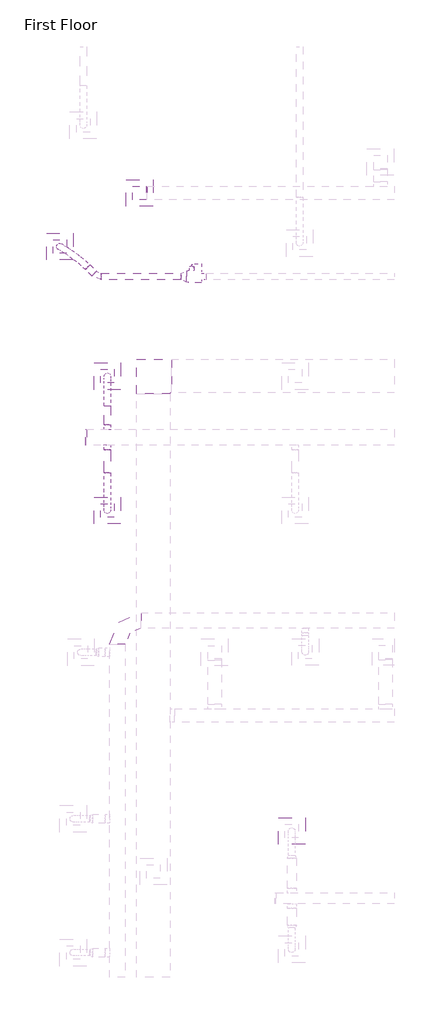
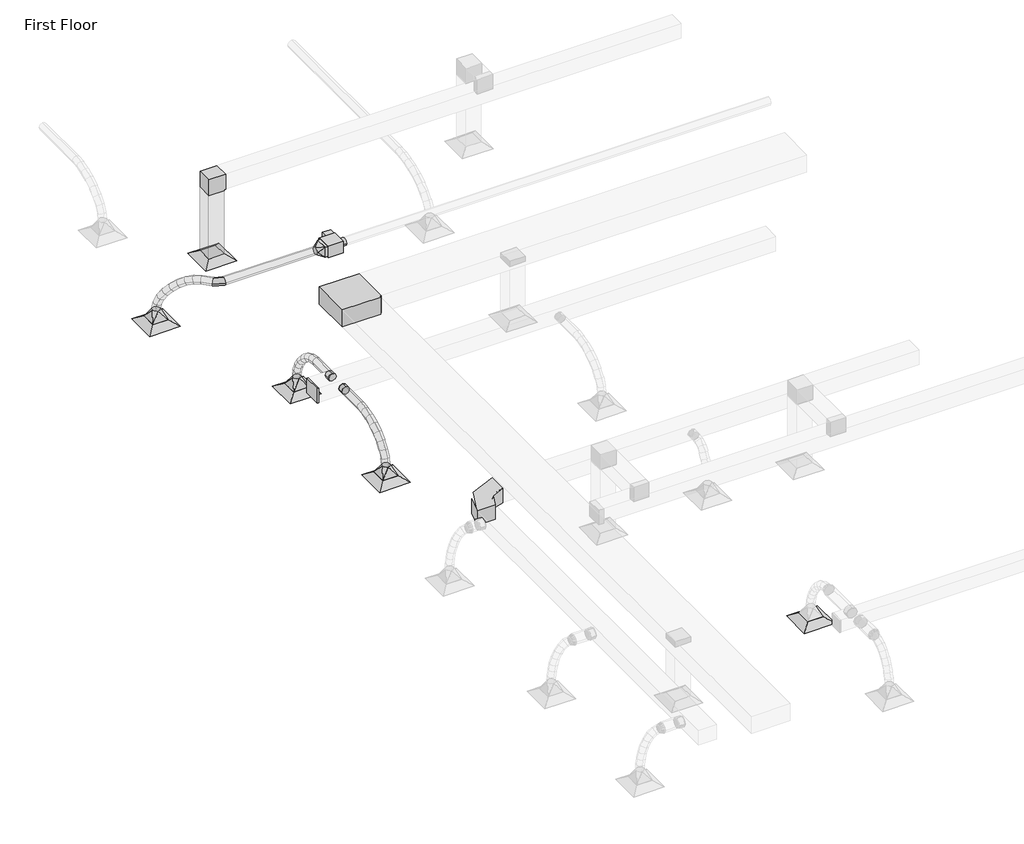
# One storey, part 34 of 61: 11 duct fittings, 8 duct segments, 5 air terminals, 1 proxy.
"""IFC4 building model written with IfcOpenShell, lengths in millimetres."""

from ifc_helpers import new_model, si_unit, point, frame, frame_2d, origin, place, context, project, spatial, polyline, circle_curve, ellipse_curve, trimmed, segment, composite_curve, outline, extrude, transform, mapped, element, save
from ifc_brep_helpers import plane_surface, cylinder_surface, advanced_brep
from components import m_exhaust_grill_er_600_x_600_face_300_x_300_connection_ff221211, m_vav_unit_single_duct_150_mm_ffdab17b, m_rectangular_elbow_mitered_standard_8eee5933, m_rectangular_elbow_mitered_standard_b1e48f8f, m_rectangular_elbow_radius_1_5_w_da3ef0f7, m_rectangular_endcap_standard_7e805889, m_rectangular_to_round_transition_angle_45_degree_8f201c83, m_rectangular_to_round_transition_angle_45_degree_66d46ab7, m_round_elbow_1_5_d_fa134dda, m_round_takeoff_standard_d02f3bf7, m_round_takeoff_standard_2721f8a4

model = new_model("IFC4")

# Units and contexts
model_context = context("Model", 3, world=origin())
ifc_project = project(units=[si_unit("LENGTHUNIT", "METRE", prefix="MILLI")], contexts=[model_context])

# Site, building, storey
site = spatial("IfcSite", under=ifc_project)
building = spatial("IfcBuilding", under=site)
storey = spatial("IfcBuildingStorey", under=building, Name="First Floor", Elevation=0.0)

# Air terminals
placement = place(None, origin())
m_exhaust_grill_er_600_x_600_face_300_x_300_connection_shape = m_exhaust_grill_er_600_x_600_face_300_x_300_connection_ff221211(model_context)
element("IfcAirTerminal", 1, ObjectType="M_Return Register : RR-600 x 600 Face 300 x 300 Connection", at=placement, inside=storey, context=model_context, shape_type="MappedRepresentation", body=[
    mapped(m_exhaust_grill_er_600_x_600_face_300_x_300_connection_shape, transform((-49523.2366451, 47179.7739392, 2680.0), x_axis=(1.0, 0.0, 0.0), y_axis=(0.0, 1.0, 0.0), z_axis=(0.0, 0.0, 1.0))),
])
element("IfcAirTerminal", 2, ObjectType="M_Supply Diffuser : SD-600 x 600 Face 300 x 300 Connection", at=placement, inside=storey, context=model_context, shape_type="MappedRepresentation", body=[
    mapped(m_exhaust_grill_er_600_x_600_face_300_x_300_connection_shape, transform((-51305.8869524, 45981.2689303, 2680.0), x_axis=(1.0, 0.0, 0.0), y_axis=(0.0, 1.0, 0.0), z_axis=(0.0, 0.0, 1.0))),
])
element("IfcAirTerminal", 3, ObjectType="M_Supply Diffuser : SD-600 x 600 Face 300 x 300 Connection", at=placement, inside=storey, context=model_context, shape_type="MappedRepresentation", body=[
    mapped(m_exhaust_grill_er_600_x_600_face_300_x_300_connection_shape, transform((-50242.3442218, 43083.0983956, 2680.0), x_axis=(1.0, 0.0, 0.0), y_axis=(0.0, 1.0, 0.0), z_axis=(0.0, 0.0, 1.0))),
])
element("IfcAirTerminal", 4, ObjectType="M_Supply Diffuser : SD-600 x 600 Face 300 x 300 Connection", at=placement, inside=storey, context=model_context, shape_type="MappedRepresentation", body=[
    mapped(m_exhaust_grill_er_600_x_600_face_300_x_300_connection_shape, transform((-50242.3442218, 40075.2507851, 2680.0), x_axis=(1.0, 0.0, 0.0), y_axis=(0.0, 1.0, 0.0), z_axis=(0.0, 0.0, 1.0))),
])
element("IfcAirTerminal", 5, ObjectType="M_Supply Diffuser : SD-600 x 600 Face 300 x 300 Connection", at=placement, inside=storey, context=model_context, shape_type="MappedRepresentation", body=[
    mapped(m_exhaust_grill_er_600_x_600_face_300_x_300_connection_shape, transform((-46112.4296862, 32905.8000587, 2680.0), x_axis=(1.0, 0.0, 0.0), y_axis=(0.0, 1.0, 0.0), z_axis=(0.0, 0.0, 1.0))),
])

# Proxy
m_vav_unit_single_duct_150_mm_shape = m_vav_unit_single_duct_150_mm_ffdab17b(model_context)
element("IfcBuildingElementProxy", 6, Name="M_VAV Unit - Single Duct : 150 mm", ObjectType="M_VAV Unit - Single Duct : 150 mm", at=placement, inside=storey, context=model_context, shape_type="MappedRepresentation", body=[
    mapped(m_vav_unit_single_duct_150_mm_shape, transform((-48130.9048215, 45311.1631718, 3500.0), x_axis=(-1.0000000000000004, 0.0, 0.0), y_axis=(0.0, -1.0000000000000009, 0.0), z_axis=(0.0, 0.0, 1.0000000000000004))),
])

# Duct fittings
m_rectangular_elbow_mitered_standard_shape = m_rectangular_elbow_mitered_standard_8eee5933(model_context)
element("IfcDuctFitting", 7, ObjectType="M_Rectangular Elbow - Mitered : Standard", at=placement, inside=storey, context=model_context, shape_type="MappedRepresentation", body=[
    mapped(m_rectangular_elbow_mitered_standard_shape, transform((-49523.2366451, 47179.7739392, 4259.5), x_axis=(0.0, 0.0, 1.0), y_axis=(1.0, 0.0, 0.0), z_axis=(0.0, 1.0, 0.0))),
])
m_rectangular_elbow_mitered_standard_2_shape = m_rectangular_elbow_mitered_standard_b1e48f8f(model_context)
element("IfcDuctFitting", 8, ObjectType="M_Rectangular Elbow - Mitered : Standard", at=placement, inside=storey, context=model_context, shape_type="MappedRepresentation", body=[
    mapped(m_rectangular_elbow_mitered_standard_2_shape, transform((-49210.6837723, 43083.0983956, 4167.610768), x_axis=(-1.0, 0.0, 0.0), y_axis=(0.0, -1.0, 0.0), z_axis=(0.0, 0.0, 1.0))),
])
m_rectangular_elbow_radius_1_5_w_shape = m_rectangular_elbow_radius_1_5_w_da3ef0f7(model_context)
element("IfcDuctFitting", 9, ObjectType="M_Rectangular Elbow - Radius : 1.5 W", at=placement, inside=storey, context=model_context, shape_type="MappedRepresentation", body=[
    mapped(m_rectangular_elbow_radius_1_5_w_shape, transform((-50017.7715879, 37612.2097424, 3669.0), x_axis=(-1.0, 0.0, 0.0), y_axis=(0.0, -1.0, 0.0), z_axis=(0.0, 0.0, 1.0))),
])
m_rectangular_endcap_standard_shape = m_rectangular_endcap_standard_7e805889(model_context)
element("IfcDuctFitting", 10, ObjectType="M_Rectangular Endcap : Standard", at=placement, inside=storey, context=model_context, shape_type="MappedRepresentation", body=[
    mapped(m_rectangular_endcap_standard_shape, transform((-50708.4542232, 41715.419914, 3669.0), x_axis=(-1.0, 0.0, 0.0), y_axis=(0.0, -1.0, 0.0), z_axis=(0.0, 0.0, 1.0))),
])
m_rectangular_to_round_transition_angle_45_degree_shape = m_rectangular_to_round_transition_angle_45_degree_8f201c83(model_context)
element("IfcDuctFitting", 11, ObjectType="M_Rectangular to Round Transition - Angle : 45 Degree", at=placement, inside=storey, context=model_context, shape_type="MappedRepresentation", body=[
    mapped(m_rectangular_to_round_transition_angle_45_degree_shape, transform((-51305.8869524, 45981.2689303, 2781.6), x_axis=(0.0, 0.0, 1.0), y_axis=(1.0, 0.0, 0.0), z_axis=(0.0, 1.0, 0.0))),
])
element("IfcDuctFitting", 12, ObjectType="M_Rectangular to Round Transition - Angle : 45 Degree", at=placement, inside=storey, context=model_context, shape_type="MappedRepresentation", body=[
    mapped(m_rectangular_to_round_transition_angle_45_degree_shape, transform((-50242.3442218, 40075.2507851, 2781.6), x_axis=(0.0, 0.0, 1.0), y_axis=(1.0, 0.0, 0.0), z_axis=(0.0, 1.0, 0.0))),
])
element("IfcDuctFitting", 13, ObjectType="M_Rectangular to Round Transition - Angle : 45 Degree", at=placement, inside=storey, context=model_context, shape_type="MappedRepresentation", body=[
    mapped(m_rectangular_to_round_transition_angle_45_degree_shape, transform((-50242.3442218, 43083.0983956, 2781.6), x_axis=(0.0, 0.0, 1.0), y_axis=(1.0, 0.0, 0.0), z_axis=(0.0, 1.0, 0.0))),
])
m_rectangular_to_round_transition_angle_45_degree_2_shape = m_rectangular_to_round_transition_angle_45_degree_66d46ab7(model_context)
element("IfcDuctFitting", 14, ObjectType="M_Rectangular to Round Transition - Angle : 45 Degree", at=placement, inside=storey, context=model_context, shape_type="MappedRepresentation", body=[
    mapped(m_rectangular_to_round_transition_angle_45_degree_2_shape, transform((-48473.7048215, 45311.1631718, 3619.05), x_axis=(-1.0, 0.0, 0.0), y_axis=(0.0, -1.0, 0.0), z_axis=(0.0, 0.0, 1.0))),
])
m_round_elbow_1_5_d_shape = m_round_elbow_1_5_d_fa134dda(model_context)
element("IfcDuctFitting", 15, ObjectType="M_Round Elbow : 1.5 D", at=placement, inside=storey, context=model_context, shape_type="MappedRepresentation", body=[
    mapped(m_round_elbow_1_5_d_shape, transform((-50473.7048215, 45311.1631718, 3619.1), x_axis=(0.7071067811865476, -0.7071067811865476, 0.0), y_axis=(0.7071067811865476, 0.7071067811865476, 0.0), z_axis=(0.0, 0.0, 1.0))),
])
m_round_takeoff_standard_shape = m_round_takeoff_standard_d02f3bf7(model_context)
element("IfcDuctFitting", 16, ObjectType="M_Round Takeoff : Standard", at=placement, inside=storey, context=model_context, shape_type="MappedRepresentation", body=[
    mapped(m_round_takeoff_standard_shape, transform((-50242.3442218, 41890.419914, 3669.0), x_axis=(0.0, 1.0, 0.0), y_axis=(1.0, 0.0, 0.0), z_axis=(0.0, 0.0, -1.0))),
])
m_round_takeoff_standard_2_shape = m_round_takeoff_standard_2721f8a4(model_context)
element("IfcDuctFitting", 17, ObjectType="M_Round Takeoff : Standard", at=placement, inside=storey, context=model_context, shape_type="MappedRepresentation", body=[
    mapped(m_round_takeoff_standard_2_shape, transform((-50242.3442218, 41540.419914, 3669.0), x_axis=(0.0, -1.0, 0.0), y_axis=(-1.0, 0.0, 0.0), z_axis=(0.0, 0.0, -1.0))),
])

# Duct segments
element("IfcDuctSegment", 18, ObjectType="Flex - Round", at=placement, inside=storey, context=model_context, shape_type="AdvancedBrep", body=[
    advanced_brep(
    [(-50736.8187899, 45468.2875485, 3619.1), (-50679.7840798, 45517.6854012, 3544.5554228), (-50634.8549218, 45578.3028638, 3619.1), (-50691.8896319, 45528.9050111, 3693.6445772), (-50830.39089, 45555.0115946, 3604.9758881), (-50769.7756735, 45601.0909796, 3530.9717655), (-50731.6015926, 45667.9691504, 3604.4967069), (-50792.2168091, 45621.8897655, 3678.5008295), (-51350.4224553, 45920.9358927, 2963.8962803), (-51365.4009907, 46025.4345779, 2974.1757872), (-51261.3514494, 46041.6019679, 2961.435754), (-51246.372914, 45937.1032827, 2951.1562472), (-50930.1301426, 45636.8678608, 3565.2906383), (-50862.5103946, 45677.1986084, 3494.0735486), (-50836.6641536, 45754.1942697, 3562.693366), (-50904.2839015, 45713.8635221, 3633.9104557), (-51031.968857, 45713.1656264, 3502.7067662), (-50957.6998207, 45748.514714, 3435.5759243), (-50941.8250243, 45832.9810013, 3498.067899), (-51016.0940607, 45797.6319137, 3565.1987409), (-51129.5127178, 45781.2289655, 3420.5304137), (-51048.5030329, 45811.8746197, 3359.0782676), (-51041.1932497, 45902.3173304, 3414.3546007), (-51122.2029347, 45871.6716761, 3475.8067468), (-51216.4578587, 45838.5285476, 3322.1329135), (-51128.2894413, 45864.456372, 3268.7824436), (-51128.7874251, 45960.0446466, 3315.2225755), (-51216.9558425, 45934.1168222, 3368.5730454), (-51286.545393, 45882.6040192, 3210.8351628), (-51190.8408271, 45903.7926371, 3169.4519618), (-51198.5811663, 46003.9353624, 3204.391363), (-51294.2857322, 45982.7467445, 3245.774564), (-51333.4512279, 45910.9770364, 3089.8645326), (-51230.8720003, 45928.0072187, 3066.2111549), (-51244.6132953, 46031.779881, 3085.6740294), (-51347.1925229, 46014.7496987, 3109.3274071)],
    [
        (0, 1, circle_curve(frame((-50685.8368558, 45523.2952062, 3619.1), z_axis=(0.7289817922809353, -0.6756314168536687, 0.11003515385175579), x_axis=(-0.6797591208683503, -0.7334354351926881, 0.0)), 75.0)),
        (1, 2, circle_curve(frame((-50685.8368558, 45523.2952062, 3619.1), z_axis=(0.7289817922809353, -0.6756314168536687, 0.11003515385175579), x_axis=(-0.6797591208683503, -0.7334354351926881, 0.0)), 75.0)),
        (2, 3, circle_curve(frame((-50685.8368558, 45523.2952062, 3619.1), z_axis=(0.7289817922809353, -0.6756314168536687, 0.11003515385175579), x_axis=(-0.6797591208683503, -0.7334354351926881, 0.0)), 75.0)),
        (3, 0, circle_curve(frame((-50685.8368558, 45523.2952062, 3619.1), z_axis=(0.7289817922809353, -0.6756314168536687, 0.11003515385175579), x_axis=(-0.6797591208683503, -0.7334354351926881, 0.0)), 75.0)),
        (0, 4),
        (4, 5, ellipse_curve(frame((-50780.9962413, 45611.4903725, 3604.7362975), z_axis=(0.7374919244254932, -0.6441272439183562, 0.20299200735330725), x_axis=(-0.050113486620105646, -0.3519354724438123, -0.9346817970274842)), 75.3657466, 75.0)),
        (5, 1),
        (5, 6, ellipse_curve(frame((-50780.9962413, 45611.4903725, 3604.7362975), z_axis=(0.7374919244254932, -0.6441272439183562, 0.20299200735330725), x_axis=(-0.050113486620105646, -0.3519354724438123, -0.9346817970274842)), 75.3657466, 75.0)),
        (6, 2),
        (6, 7, ellipse_curve(frame((-50780.9962413, 45611.4903725, 3604.7362975), z_axis=(0.7374919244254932, -0.6441272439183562, 0.20299200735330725), x_axis=(-0.050113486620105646, -0.3519354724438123, -0.9346817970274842)), 75.3657466, 75.0)),
        (7, 3),
        (7, 4, ellipse_curve(frame((-50780.9962413, 45611.4903725, 3604.7362975), z_axis=(0.7374919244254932, -0.6441272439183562, 0.20299200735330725), x_axis=(-0.050113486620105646, -0.3519354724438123, -0.9346817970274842)), 75.3657466, 75.0)),
        (8, 9, circle_curve(frame((-51305.8869524, 45981.2689303, 2962.6660172), z_axis=(-0.1331119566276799, 0.0781111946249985, -0.9880181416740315), x_axis=(-0.5938067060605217, -0.8044405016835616, 0.016403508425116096)), 75.0)),
        (9, 10, circle_curve(frame((-51305.8869524, 45981.2689303, 2962.6660172), z_axis=(-0.1331119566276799, 0.0781111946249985, -0.9880181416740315), x_axis=(-0.5938067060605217, -0.8044405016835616, 0.016403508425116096)), 75.0)),
        (10, 11, circle_curve(frame((-51305.8869524, 45981.2689303, 2962.6660172), z_axis=(-0.1331119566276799, 0.0781111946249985, -0.9880181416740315), x_axis=(-0.5938067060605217, -0.8044405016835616, 0.016403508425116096)), 75.0)),
        (11, 8, circle_curve(frame((-51305.8869524, 45981.2689303, 2962.6660172), z_axis=(-0.1331119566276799, 0.0781111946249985, -0.9880181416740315), x_axis=(-0.5938067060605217, -0.8044405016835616, 0.016403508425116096)), 75.0)),
        (4, 12),
        (12, 13, ellipse_curve(frame((-50883.3971481, 45695.5310652, 3563.9920022), z_axis=(0.7309509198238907, -0.5741327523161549, 0.3688933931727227), x_axis=(0.12638262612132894, -0.41732151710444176, -0.8999278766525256)), 75.2526171, 75.0)),
        (13, 5),
        (13, 14, ellipse_curve(frame((-50883.3971481, 45695.5310652, 3563.9920022), z_axis=(0.7309509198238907, -0.5741327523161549, 0.3688933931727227), x_axis=(0.12638262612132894, -0.41732151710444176, -0.8999278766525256)), 75.2526171, 75.0)),
        (14, 6),
        (14, 15, ellipse_curve(frame((-50883.3971481, 45695.5310652, 3563.9920022), z_axis=(0.7309509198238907, -0.5741327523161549, 0.3688933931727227), x_axis=(0.12638262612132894, -0.41732151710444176, -0.8999278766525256)), 75.2526171, 75.0)),
        (15, 7),
        (15, 12, ellipse_curve(frame((-50883.3971481, 45695.5310652, 3563.9920022), z_axis=(0.7309509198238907, -0.5741327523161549, 0.3688933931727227), x_axis=(0.12638262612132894, -0.41732151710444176, -0.8999278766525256)), 75.2526171, 75.0)),
        (12, 16),
        (16, 17, ellipse_curve(frame((-50986.8969407, 45773.0733138, 3500.3873326), z_axis=(0.6984068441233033, -0.5058481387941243, 0.5063057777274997), x_axis=(0.28916286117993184, -0.44767807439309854, -0.8461496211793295)), 75.2123908, 75.0)),
        (17, 13),
        (17, 18, ellipse_curve(frame((-50986.8969407, 45773.0733138, 3500.3873326), z_axis=(0.6984068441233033, -0.5058481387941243, 0.5063057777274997), x_axis=(0.28916286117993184, -0.44767807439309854, -0.8461496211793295)), 75.2123908, 75.0)),
        (18, 14),
        (18, 19, ellipse_curve(frame((-50986.8969407, 45773.0733138, 3500.3873326), z_axis=(0.6984068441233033, -0.5058481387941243, 0.5063057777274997), x_axis=(0.28916286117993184, -0.44767807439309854, -0.8461496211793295)), 75.2123908, 75.0)),
        (19, 15),
        (19, 16, ellipse_curve(frame((-50986.8969407, 45773.0733138, 3500.3873326), z_axis=(0.6984068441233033, -0.5058481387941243, 0.5063057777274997), x_axis=(0.28916286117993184, -0.44767807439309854, -0.8461496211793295)), 75.2123908, 75.0)),
        (16, 20),
        (20, 21, ellipse_curve(frame((-51085.3529838, 45841.7731479, 3417.4425072), z_axis=(0.6427037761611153, -0.43667015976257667, 0.6294847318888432), x_axis=(0.44119441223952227, -0.46076757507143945, -0.7700913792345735)), 75.2226072, 75.0)),
        (21, 17),
        (21, 22, ellipse_curve(frame((-51085.3529838, 45841.7731479, 3417.4425072), z_axis=(0.6427037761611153, -0.43667015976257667, 0.6294847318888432), x_axis=(0.44119441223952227, -0.46076757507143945, -0.7700913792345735)), 75.2226072, 75.0)),
        (22, 18),
        (22, 23, ellipse_curve(frame((-51085.3529838, 45841.7731479, 3417.4425072), z_axis=(0.6427037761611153, -0.43667015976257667, 0.6294847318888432), x_axis=(0.44119441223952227, -0.46076757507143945, -0.7700913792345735)), 75.2226072, 75.0)),
        (23, 19),
        (23, 20, ellipse_curve(frame((-51085.3529838, 45841.7731479, 3417.4425072), z_axis=(0.6427037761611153, -0.43667015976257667, 0.6294847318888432), x_axis=(0.44119441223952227, -0.46076757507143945, -0.7700913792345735)), 75.2226072, 75.0)),
        (20, 24),
        (24, 25, ellipse_curve(frame((-51172.6226419, 45899.2865971, 3318.6777445), z_axis=(0.558199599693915, -0.36022053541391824, 0.7474318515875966), x_axis=(0.5825519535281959, -0.4712972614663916, -0.6622024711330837)), 75.2869398, 75.0)),
        (25, 21),
        (25, 26, ellipse_curve(frame((-51172.6226419, 45899.2865971, 3318.6777445), z_axis=(0.558199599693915, -0.36022053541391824, 0.7474318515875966), x_axis=(0.5825519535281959, -0.4712972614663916, -0.6622024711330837)), 75.2869398, 75.0)),
        (26, 22),
        (26, 27, ellipse_curve(frame((-51172.6226419, 45899.2865971, 3318.6777445), z_axis=(0.558199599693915, -0.36022053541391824, 0.7474318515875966), x_axis=(0.5825519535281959, -0.4712972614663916, -0.6622024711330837)), 75.2869398, 75.0)),
        (27, 23),
        (27, 24, ellipse_curve(frame((-51172.6226419, 45899.2865971, 3318.6777445), z_axis=(0.558199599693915, -0.36022053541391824, 0.7474318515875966), x_axis=(0.5825519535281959, -0.4712972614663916, -0.6622024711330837)), 75.2869398, 75.0)),
        (24, 28),
        (28, 29, ellipse_curve(frame((-51242.5632797, 45943.2696908, 3207.6132629), z_axis=(0.43169214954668, -0.2672180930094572, 0.861531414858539), x_axis=(0.7111170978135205, -0.4867786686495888, -0.5073056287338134)), 75.4325223, 75.0)),
        (29, 25),
        (29, 30, ellipse_curve(frame((-51242.5632797, 45943.2696908, 3207.6132629), z_axis=(0.43169214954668, -0.2672180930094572, 0.861531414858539), x_axis=(0.7111170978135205, -0.4867786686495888, -0.5073056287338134)), 75.4325223, 75.0)),
        (30, 26),
        (30, 31, ellipse_curve(frame((-51242.5632797, 45943.2696908, 3207.6132629), z_axis=(0.43169214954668, -0.2672180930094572, 0.861531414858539), x_axis=(0.7111170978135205, -0.4867786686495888, -0.5073056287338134)), 75.4325223, 75.0)),
        (31, 27),
        (31, 28, ellipse_curve(frame((-51242.5632797, 45943.2696908, 3207.6132629), z_axis=(0.43169214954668, -0.2672180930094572, 0.861531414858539), x_axis=(0.7111170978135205, -0.4867786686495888, -0.5073056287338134)), 75.4325223, 75.0)),
        (28, 32),
        (32, 33, ellipse_curve(frame((-51289.0322616, 45971.3784587, 3087.769281), z_axis=(0.24538476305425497, -0.14721680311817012, 0.9581824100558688), x_axis=(0.8158854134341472, -0.5024486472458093, -0.2861404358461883)), 75.6914772, 75.0)),
        (33, 29),
        (33, 34, ellipse_curve(frame((-51289.0322616, 45971.3784587, 3087.769281), z_axis=(0.24538476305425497, -0.14721680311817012, 0.9581824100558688), x_axis=(0.8158854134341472, -0.5024486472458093, -0.2861404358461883)), 75.6914772, 75.0)),
        (34, 30),
        (34, 35, ellipse_curve(frame((-51289.0322616, 45971.3784587, 3087.769281), z_axis=(0.24538476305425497, -0.14721680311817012, 0.9581824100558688), x_axis=(0.8158854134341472, -0.5024486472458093, -0.2861404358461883)), 75.6914772, 75.0)),
        (35, 31),
        (35, 32, ellipse_curve(frame((-51289.0322616, 45971.3784587, 3087.769281), z_axis=(0.24538476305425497, -0.14721680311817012, 0.9581824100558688), x_axis=(0.8158854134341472, -0.5024486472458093, -0.2861404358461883)), 75.6914772, 75.0)),
        (32, 8),
        (11, 33),
        (10, 34),
        (9, 35),
    ],
    [
        plane_surface(frame((-50685.8368558, 45535.3510683, 3693.1246998), z_axis=(0.7289817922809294, -0.6756314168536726, 0.11003515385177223), x_axis=(0.6845330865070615, 0.719502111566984, -0.1171800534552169))),
        cylinder_surface(frame((-50685.8368558, 45523.2952062, 3619.1), z_axis=(0.7289817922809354, -0.6756314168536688, 0.11003515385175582), x_axis=(-0.6797591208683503, -0.7334354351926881, 0.0)), 75.0),
        plane_surface(frame((-51305.8869524, 46056.0356393, 2968.5769582), z_axis=(-0.13311195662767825, 0.07811119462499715, -0.9880181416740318), x_axis=(0.9911010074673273, 0.010490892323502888, -0.13269790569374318))),
        cylinder_surface(frame((-50780.9962413, 45611.4903725, 3604.7362975), z_axis=(0.7388440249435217, -0.6063712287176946, 0.29397863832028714), x_axis=(-0.6371451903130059, -0.7706545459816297, 0.011729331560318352)), 75.0),
        cylinder_surface(frame((-50883.3971481, 45695.5310652, 3563.9920022), z_axis=(0.7181503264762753, -0.5380396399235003, 0.44133145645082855), x_axis=(-0.6094611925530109, -0.7923992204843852, 0.02570078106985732)), 75.0),
        cylinder_surface(frame((-50986.8969407, 45773.0733138, 3500.3873326), z_axis=(0.6747189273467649, -0.4707997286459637, 0.5684206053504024), x_axis=(-0.5929707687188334, -0.8043430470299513, 0.03765541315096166)), 75.0),
        cylinder_surface(frame((-51085.3529838, 45841.7731479, 3417.4425072), z_axis=(0.6068847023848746, -0.3999561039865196, 0.6868231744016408), x_axis=(-0.5850418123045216, -0.8097301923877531, 0.04542128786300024)), 75.0),
        cylinder_surface(frame((-51172.6226419, 45899.2865971, 3318.6777445), z_axis=(0.5052595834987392, -0.31773916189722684, 0.8023431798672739), x_axis=(-0.5839931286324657, -0.8104069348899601, 0.04682548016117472)), 75.0),
        cylinder_surface(frame((-51242.5632797, 45943.2696908, 3207.6132629), z_axis=(0.3531741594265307, -0.21363262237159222, 0.9108397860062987), x_axis=(-0.5881302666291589, -0.8078460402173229, 0.038568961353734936)), 75.0),
        cylinder_surface(frame((-51289.0322616, 45971.3784587, 3087.769281), z_axis=(0.13311195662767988, -0.07811119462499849, 0.9880181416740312), x_axis=(-0.5938067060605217, -0.8044405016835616, 0.016403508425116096)), 75.0),
    ],
    [
        (0, [[1, 2, 3, 4]]),
        (1, [[-1, 5, 6, 7]]),
        (1, [[-2, -7, 8, 9]]),
        (1, [[-3, -9, 10, 11]]),
        (1, [[-4, -11, 12, -5]]),
        (2, [[13, 14, 15, 16]]),
        (3, [[-6, 17, 18, 19]]),
        (3, [[-8, -19, 20, 21]]),
        (3, [[-10, -21, 22, 23]]),
        (3, [[-12, -23, 24, -17]]),
        (4, [[-18, 25, 26, 27]]),
        (4, [[-20, -27, 28, 29]]),
        (4, [[-22, -29, 30, 31]]),
        (4, [[-24, -31, 32, -25]]),
        (5, [[-26, 33, 34, 35]]),
        (5, [[-28, -35, 36, 37]]),
        (5, [[-30, -37, 38, 39]]),
        (5, [[-32, -39, 40, -33]]),
        (6, [[-34, 41, 42, 43]]),
        (6, [[-36, -43, 44, 45]]),
        (6, [[-38, -45, 46, 47]]),
        (6, [[-40, -47, 48, -41]]),
        (7, [[-42, 49, 50, 51]]),
        (7, [[-44, -51, 52, 53]]),
        (7, [[-46, -53, 54, 55]]),
        (7, [[-48, -55, 56, -49]]),
        (8, [[-50, 57, 58, 59]]),
        (8, [[-52, -59, 60, 61]]),
        (8, [[-54, -61, 62, 63]]),
        (8, [[-56, -63, 64, -57]]),
        (9, [[-58, 65, -16, 66]]),
        (9, [[-60, -66, -15, 67]]),
        (9, [[-62, -67, -14, 68]]),
        (9, [[-64, -68, -13, -65]]),
    ],
),
])
element("IfcDuctSegment", 19, ObjectType="Flex - Round", at=placement, inside=storey, context=model_context, shape_type="AdvancedBrep", body=[
    advanced_brep(
    [(-50167.3442218, 40915.419914, 3669.0), (-50242.3442218, 40923.5251309, 3594.4392499), (-50317.3442218, 40915.419914, 3669.0), (-50242.3442218, 40907.3146971, 3743.5607501), (-50167.3442218, 40774.272265, 3653.6563733), (-50242.3442218, 40789.2791324, 3579.8458755), (-50317.3442218, 40774.272265, 3653.6563733), (-50242.3442218, 40759.2653976, 3727.4668712), (-50167.3442218, 40075.2507851, 2962.6660172), (-50242.3442218, 40001.144763, 2974.2114702), (-50317.3442218, 40075.2507851, 2962.6660172), (-50242.3442218, 40149.3568072, 2951.1205641), (-50167.3442218, 40629.7892532, 3610.0867266), (-50242.3442218, 40657.0949868, 3539.9850195), (-50317.3442218, 40629.7892532, 3610.0867266), (-50242.3442218, 40602.4835197, 3680.1884338), (-50167.3442218, 40488.7994898, 3541.9829097), (-50242.3442218, 40526.4165495, 3476.8619945), (-50317.3442218, 40488.7994898, 3541.9829097), (-50242.3442218, 40451.18243, 3607.1038249), (-50167.3442218, 40358.1315857, 3453.0367725), (-50242.3442218, 40405.1169096, 3394.2928701), (-50317.3442218, 40358.1315857, 3453.0367725), (-50242.3442218, 40311.1462618, 3511.7806748), (-50167.3442218, 40244.6141521, 3346.9401647), (-50242.3442218, 40300.6702173, 3296.6740341), (-50317.3442218, 40244.6141521, 3346.9401647), (-50242.3442218, 40188.5580868, 3397.2062953), (-50167.3442218, 40155.0758, 3227.3849363), (-50242.3442218, 40219.9930329, 3188.9505951), (-50317.3442218, 40155.0758, 3227.3849363), (-50242.3442218, 40090.1585672, 3265.8192776), (-50167.3442218, 40096.3451407, 3098.0629372), (-50242.3442218, 40168.8727584, 3076.3862859), (-50317.3442218, 40096.3451407, 3098.0629372), (-50242.3442218, 40023.817523, 3119.7395885)],
    [
        (0, 1, circle_curve(frame((-50242.3442218, 40915.419914, 3669.0), z_axis=(0.0, 0.994143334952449, 0.10806955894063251), x_axis=(1.0, 0.0, 0.0)), 75.0)),
        (1, 2, circle_curve(frame((-50242.3442218, 40915.419914, 3669.0), z_axis=(0.0, 0.994143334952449, 0.10806955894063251), x_axis=(1.0, 0.0, 0.0)), 75.0)),
        (2, 3, circle_curve(frame((-50242.3442218, 40915.419914, 3669.0), z_axis=(0.0, 0.994143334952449, 0.10806955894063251), x_axis=(1.0, 0.0, 0.0)), 75.0)),
        (3, 0, circle_curve(frame((-50242.3442218, 40915.419914, 3669.0), z_axis=(0.0, 0.994143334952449, 0.10806955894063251), x_axis=(1.0, 0.0, 0.0)), 75.0)),
        (0, 4),
        (4, 5, ellipse_curve(frame((-50242.3442218, 40774.272265, 3653.6563733), z_axis=(0.0, 0.9799507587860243, 0.19923983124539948), x_axis=(0.0, 0.19923983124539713, -0.9799507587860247)), 75.3206191, 75.0)),
        (5, 1),
        (5, 6, ellipse_curve(frame((-50242.3442218, 40774.272265, 3653.6563733), z_axis=(0.0, 0.9799507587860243, 0.19923983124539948), x_axis=(0.0, 0.19923983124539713, -0.9799507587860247)), 75.3206191, 75.0)),
        (6, 2),
        (6, 7, ellipse_curve(frame((-50242.3442218, 40774.272265, 3653.6563733), z_axis=(0.0, 0.9799507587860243, 0.19923983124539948), x_axis=(0.0, 0.19923983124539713, -0.9799507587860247)), 75.3206191, 75.0)),
        (7, 3),
        (7, 4, ellipse_curve(frame((-50242.3442218, 40774.272265, 3653.6563733), z_axis=(0.0, 0.9799507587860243, 0.19923983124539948), x_axis=(0.0, 0.19923983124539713, -0.9799507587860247)), 75.3206191, 75.0)),
        (8, 9, circle_curve(frame((-50242.3442218, 40075.2507851, 2962.6660172), z_axis=(0.0, -0.1539393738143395, -0.9880802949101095), x_axis=(1.0, 0.0, 0.0)), 75.0)),
        (9, 10, circle_curve(frame((-50242.3442218, 40075.2507851, 2962.6660172), z_axis=(0.0, -0.1539393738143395, -0.9880802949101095), x_axis=(1.0, 0.0, 0.0)), 75.0)),
        (10, 11, circle_curve(frame((-50242.3442218, 40075.2507851, 2962.6660172), z_axis=(0.0, -0.1539393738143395, -0.9880802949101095), x_axis=(1.0, 0.0, 0.0)), 75.0)),
        (11, 8, circle_curve(frame((-50242.3442218, 40075.2507851, 2962.6660172), z_axis=(0.0, -0.1539393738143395, -0.9880802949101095), x_axis=(1.0, 0.0, 0.0)), 75.0)),
        (4, 12),
        (12, 13, ellipse_curve(frame((-50242.3442218, 40629.7892532, 3610.0867266), z_axis=(0.0, 0.9318071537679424, 0.36295375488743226), x_axis=(0.0, 0.3629537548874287, -0.9318071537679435)), 75.2319907, 75.0)),
        (13, 5),
        (13, 14, ellipse_curve(frame((-50242.3442218, 40629.7892532, 3610.0867266), z_axis=(0.0, 0.9318071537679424, 0.36295375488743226), x_axis=(0.0, 0.3629537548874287, -0.9318071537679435)), 75.2319907, 75.0)),
        (14, 6),
        (14, 15, ellipse_curve(frame((-50242.3442218, 40629.7892532, 3610.0867266), z_axis=(0.0, 0.9318071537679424, 0.36295375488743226), x_axis=(0.0, 0.3629537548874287, -0.9318071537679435)), 75.2319907, 75.0)),
        (15, 7),
        (15, 12, ellipse_curve(frame((-50242.3442218, 40629.7892532, 3610.0867266), z_axis=(0.0, 0.9318071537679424, 0.36295375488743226), x_axis=(0.0, 0.3629537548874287, -0.9318071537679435)), 75.2319907, 75.0)),
        (12, 16),
        (16, 17, ellipse_curve(frame((-50242.3442218, 40488.7994898, 3541.9829097), z_axis=(0.0, 0.8659132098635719, 0.5001942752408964), x_axis=(0.0, 0.5001942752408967, -0.8659132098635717)), 75.2048987, 75.0)),
        (17, 13),
        (17, 18, ellipse_curve(frame((-50242.3442218, 40488.7994898, 3541.9829097), z_axis=(0.0, 0.8659132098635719, 0.5001942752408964), x_axis=(0.0, 0.5001942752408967, -0.8659132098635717)), 75.2048987, 75.0)),
        (18, 14),
        (18, 19, ellipse_curve(frame((-50242.3442218, 40488.7994898, 3541.9829097), z_axis=(0.0, 0.8659132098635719, 0.5001942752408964), x_axis=(0.0, 0.5001942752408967, -0.8659132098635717)), 75.2048987, 75.0)),
        (19, 15),
        (19, 16, ellipse_curve(frame((-50242.3442218, 40488.7994898, 3541.9829097), z_axis=(0.0, 0.8659132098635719, 0.5001942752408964), x_axis=(0.0, 0.5001942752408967, -0.8659132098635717)), 75.2048987, 75.0)),
        (16, 20),
        (20, 21, ellipse_curve(frame((-50242.3442218, 40358.1315857, 3453.0367725), z_axis=(0.0, 0.7809323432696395, 0.6246156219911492), x_axis=(0.0, 0.624615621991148, -0.7809323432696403)), 75.2227806, 75.0)),
        (21, 17),
        (21, 22, ellipse_curve(frame((-50242.3442218, 40358.1315857, 3453.0367725), z_axis=(0.0, 0.7809323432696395, 0.6246156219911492), x_axis=(0.0, 0.624615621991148, -0.7809323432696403)), 75.2227806, 75.0)),
        (22, 18),
        (22, 23, ellipse_curve(frame((-50242.3442218, 40358.1315857, 3453.0367725), z_axis=(0.0, 0.7809323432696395, 0.6246156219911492), x_axis=(0.0, 0.624615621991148, -0.7809323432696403)), 75.2227806, 75.0)),
        (23, 19),
        (23, 20, ellipse_curve(frame((-50242.3442218, 40358.1315857, 3453.0367725), z_axis=(0.0, 0.7809323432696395, 0.6246156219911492), x_axis=(0.0, 0.624615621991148, -0.7809323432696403)), 75.2227806, 75.0)),
        (20, 24),
        (24, 25, ellipse_curve(frame((-50242.3442218, 40244.6141521, 3346.9401647), z_axis=(0.0, 0.6676110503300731, 0.7445102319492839), x_axis=(0.0, 0.7445102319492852, -0.6676110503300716)), 75.2925384, 75.0)),
        (25, 21),
        (25, 26, ellipse_curve(frame((-50242.3442218, 40244.6141521, 3346.9401647), z_axis=(0.0, 0.6676110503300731, 0.7445102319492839), x_axis=(0.0, 0.7445102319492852, -0.6676110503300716)), 75.2925384, 75.0)),
        (26, 22),
        (26, 27, ellipse_curve(frame((-50242.3442218, 40244.6141521, 3346.9401647), z_axis=(0.0, 0.6676110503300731, 0.7445102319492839), x_axis=(0.0, 0.7445102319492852, -0.6676110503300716)), 75.2925384, 75.0)),
        (27, 23),
        (27, 24, ellipse_curve(frame((-50242.3442218, 40244.6141521, 3346.9401647), z_axis=(0.0, 0.6676110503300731, 0.7445102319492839), x_axis=(0.0, 0.7445102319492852, -0.6676110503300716)), 75.2925384, 75.0)),
        (24, 28),
        (28, 29, ellipse_curve(frame((-50242.3442218, 40155.0758, 3227.3849363), z_axis=(0.0, 0.5094577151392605, 0.8604956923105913), x_axis=(0.0, 0.8604956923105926, -0.5094577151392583)), 75.4416709, 75.0)),
        (29, 25),
        (29, 30, ellipse_curve(frame((-50242.3442218, 40155.0758, 3227.3849363), z_axis=(0.0, 0.5094577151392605, 0.8604956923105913), x_axis=(0.0, 0.8604956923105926, -0.5094577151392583)), 75.4416709, 75.0)),
        (30, 26),
        (30, 31, ellipse_curve(frame((-50242.3442218, 40155.0758, 3227.3849363), z_axis=(0.0, 0.5094577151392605, 0.8604956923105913), x_axis=(0.0, 0.8604956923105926, -0.5094577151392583)), 75.4416709, 75.0)),
        (31, 27),
        (31, 28, ellipse_curve(frame((-50242.3442218, 40155.0758, 3227.3849363), z_axis=(0.0, 0.5094577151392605, 0.8604956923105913), x_axis=(0.0, 0.8604956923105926, -0.5094577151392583)), 75.4416709, 75.0)),
        (28, 32),
        (32, 33, ellipse_curve(frame((-50242.3442218, 40096.3451407, 3098.0629372), z_axis=(0.0, 0.2863583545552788, 0.9581225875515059), x_axis=(0.0, 0.9581225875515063, -0.28635835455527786)), 75.6976389, 75.0)),
        (33, 29),
        (33, 34, ellipse_curve(frame((-50242.3442218, 40096.3451407, 3098.0629372), z_axis=(0.0, 0.2863583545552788, 0.9581225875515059), x_axis=(0.0, 0.9581225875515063, -0.28635835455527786)), 75.6976389, 75.0)),
        (34, 30),
        (34, 35, ellipse_curve(frame((-50242.3442218, 40096.3451407, 3098.0629372), z_axis=(0.0, 0.2863583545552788, 0.9581225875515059), x_axis=(0.0, 0.9581225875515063, -0.28635835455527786)), 75.6976389, 75.0)),
        (35, 31),
        (35, 32, ellipse_curve(frame((-50242.3442218, 40096.3451407, 3098.0629372), z_axis=(0.0, 0.2863583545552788, 0.9581225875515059), x_axis=(0.0, 0.9581225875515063, -0.28635835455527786)), 75.6976389, 75.0)),
        (32, 8),
        (11, 33),
        (10, 34),
        (9, 35),
    ],
    [
        plane_surface(frame((-50242.3442218, 40923.5251309, 3594.4392499), z_axis=(0.0, 0.9941433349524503, 0.1080695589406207), x_axis=(1.0, 0.0, 0.0))),
        cylinder_surface(frame((-50242.3442218, 40915.419914, 3669.0), z_axis=(0.0, 0.994143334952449, 0.10806955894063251), x_axis=(1.0, 0.0, 0.0)), 75.0),
        plane_surface(frame((-50242.3442218, 40149.3568072, 2951.1205641), z_axis=(0.0, -0.15393937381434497, -0.9880802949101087), x_axis=(1.0, 0.0, 0.0))),
        cylinder_surface(frame((-50242.3442218, 40774.272265, 3653.6563733), z_axis=(0.0, 0.9574154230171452, 0.28871388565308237), x_axis=(1.0, 0.0, 0.0)), 75.0),
        cylinder_surface(frame((-50242.3442218, 40629.7892532, 3610.0867266), z_axis=(0.0, 0.9004521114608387, 0.4349551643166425), x_axis=(1.0, 0.0, 0.0)), 75.0),
        cylinder_surface(frame((-50242.3442218, 40488.7994898, 3541.9829097), z_axis=(0.0, 0.8266558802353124, 0.5627077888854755), x_axis=(1.0, 0.0, 0.0)), 75.0),
        cylinder_surface(frame((-50242.3442218, 40358.1315857, 3453.0367725), z_axis=(0.0, 0.7305831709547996, 0.6828237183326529), x_axis=(1.0, 0.0, 0.0)), 75.0),
        cylinder_surface(frame((-50242.3442218, 40244.6141521, 3346.9401647), z_axis=(0.0, 0.5994511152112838, 0.8004113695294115), x_axis=(1.0, 0.0, 0.0)), 75.0),
        cylinder_surface(frame((-50242.3442218, 40155.0758, 3227.3849363), z_axis=(0.0, 0.41349910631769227, 0.9105045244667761), x_axis=(1.0, 0.0, 0.0)), 75.0),
        cylinder_surface(frame((-50242.3442218, 40096.3451407, 3098.0629372), z_axis=(0.0, 0.1539393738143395, 0.9880802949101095), x_axis=(1.0, 0.0, 0.0)), 75.0),
    ],
    [
        (0, [[1, 2, 3, 4]]),
        (1, [[-1, 5, 6, 7]]),
        (1, [[-2, -7, 8, 9]]),
        (1, [[-3, -9, 10, 11]]),
        (1, [[-4, -11, 12, -5]]),
        (2, [[13, 14, 15, 16]]),
        (3, [[-6, 17, 18, 19]]),
        (3, [[-8, -19, 20, 21]]),
        (3, [[-10, -21, 22, 23]]),
        (3, [[-12, -23, 24, -17]]),
        (4, [[-18, 25, 26, 27]]),
        (4, [[-20, -27, 28, 29]]),
        (4, [[-22, -29, 30, 31]]),
        (4, [[-24, -31, 32, -25]]),
        (5, [[-26, 33, 34, 35]]),
        (5, [[-28, -35, 36, 37]]),
        (5, [[-30, -37, 38, 39]]),
        (5, [[-32, -39, 40, -33]]),
        (6, [[-34, 41, 42, 43]]),
        (6, [[-36, -43, 44, 45]]),
        (6, [[-38, -45, 46, 47]]),
        (6, [[-40, -47, 48, -41]]),
        (7, [[-42, 49, 50, 51]]),
        (7, [[-44, -51, 52, 53]]),
        (7, [[-46, -53, 54, 55]]),
        (7, [[-48, -55, 56, -49]]),
        (8, [[-50, 57, 58, 59]]),
        (8, [[-52, -59, 60, 61]]),
        (8, [[-54, -61, 62, 63]]),
        (8, [[-56, -63, 64, -57]]),
        (9, [[-58, 65, -16, 66]]),
        (9, [[-60, -66, -15, 67]]),
        (9, [[-62, -67, -14, 68]]),
        (9, [[-64, -68, -13, -65]]),
    ],
),
])
element("IfcDuctSegment", 20, ObjectType="Flex - Round", at=placement, inside=storey, context=model_context, shape_type="AdvancedBrep", body=[
    advanced_brep(
    [(-50317.3442218, 42415.4199068, 3669.0), (-50242.3442218, 42403.6306421, 3594.9323739), (-50167.3442218, 42415.4199068, 3669.0), (-50242.3442218, 42427.2091716, 3743.0676261), (-50317.3442218, 42554.4180921, 3646.8758077), (-50242.3442218, 42532.6503601, 3574.3964435), (-50167.3442218, 42554.4180921, 3646.8758077), (-50242.3442218, 42576.1858241, 3719.3551718), (-50317.3442218, 43083.0983956, 2962.6660172), (-50242.3442218, 43157.3577977, 2973.179875), (-50167.3442218, 43083.0983956, 2962.6660172), (-50242.3442218, 43008.8389936, 2952.1521594), (-50317.3442218, 42689.4724865, 3585.6427061), (-50242.3442218, 42651.1991461, 3520.6469163), (-50167.3442218, 42689.4724865, 3585.6427061), (-50242.3442218, 42727.7458269, 3650.638496), (-50317.3442218, 42814.2262557, 3493.0099084), (-50242.3442218, 42763.9793658, 3436.9047789), (-50167.3442218, 42814.2262557, 3493.0099084), (-50242.3442218, 42864.4731456, 3549.1150379), (-50317.3442218, 42922.3225655, 3376.6866275), (-50242.3442218, 42862.8454086, 3330.5142602), (-50167.3442218, 42922.3225655, 3376.6866275), (-50242.3442218, 42981.7997224, 3422.8589949), (-50317.3442218, 43007.4045816, 3244.3820767), (-50242.3442218, 42940.3715087, 3209.9593379), (-50167.3442218, 43007.4045816, 3244.3820767), (-50242.3442218, 43074.4376546, 3278.8048155), (-50317.3442218, 43063.1154697, 3103.8054689), (-50242.3442218, 42990.1060489, 3084.4629906), (-50167.3442218, 43063.1154697, 3103.8054689), (-50242.3442218, 43136.1248905, 3123.1479471)],
    [
        (0, 1, circle_curve(frame((-50242.3442218, 42415.4199068, 3669.0), z_axis=(0.0, -0.9875683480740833, 0.1571901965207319), x_axis=(-1.0, 0.0, 0.0)), 75.0)),
        (1, 2, circle_curve(frame((-50242.3442218, 42415.4199068, 3669.0), z_axis=(0.0, -0.9875683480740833, 0.1571901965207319), x_axis=(-1.0, 0.0, 0.0)), 75.0)),
        (2, 3, circle_curve(frame((-50242.3442218, 42415.4199068, 3669.0), z_axis=(0.0, -0.9875683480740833, 0.1571901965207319), x_axis=(-1.0, 0.0, 0.0)), 75.0)),
        (3, 0, circle_curve(frame((-50242.3442218, 42415.4199068, 3669.0), z_axis=(0.0, -0.9875683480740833, 0.1571901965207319), x_axis=(-1.0, 0.0, 0.0)), 75.0)),
        (0, 4),
        (4, 5, ellipse_curve(frame((-50242.3442218, 42554.4180921, 3646.8758077), z_axis=(0.0, -0.9577392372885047, 0.2876378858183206), x_axis=(0.0, -0.2876378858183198, -0.9577392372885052)), 75.6775554, 75.0)),
        (5, 1),
        (5, 6, ellipse_curve(frame((-50242.3442218, 42554.4180921, 3646.8758077), z_axis=(0.0, -0.9577392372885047, 0.2876378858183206), x_axis=(0.0, -0.2876378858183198, -0.9577392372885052)), 75.6775554, 75.0)),
        (6, 2),
        (6, 7, ellipse_curve(frame((-50242.3442218, 42554.4180921, 3646.8758077), z_axis=(0.0, -0.9577392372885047, 0.2876378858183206), x_axis=(0.0, -0.2876378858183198, -0.9577392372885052)), 75.6775554, 75.0)),
        (7, 3),
        (7, 4, ellipse_curve(frame((-50242.3442218, 42554.4180921, 3646.8758077), z_axis=(0.0, -0.9577392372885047, 0.2876378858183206), x_axis=(0.0, -0.2876378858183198, -0.9577392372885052)), 75.6775554, 75.0)),
        (8, 9, circle_curve(frame((-50242.3442218, 43083.0983956, 2962.6660172), z_axis=(0.0, 0.14018477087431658, -0.9901253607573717), x_axis=(-1.0, 0.0, 0.0)), 75.0)),
        (9, 10, circle_curve(frame((-50242.3442218, 43083.0983956, 2962.6660172), z_axis=(0.0, 0.14018477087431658, -0.9901253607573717), x_axis=(-1.0, 0.0, 0.0)), 75.0)),
        (10, 11, circle_curve(frame((-50242.3442218, 43083.0983956, 2962.6660172), z_axis=(0.0, 0.14018477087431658, -0.9901253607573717), x_axis=(-1.0, 0.0, 0.0)), 75.0)),
        (11, 8, circle_curve(frame((-50242.3442218, 43083.0983956, 2962.6660172), z_axis=(0.0, 0.14018477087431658, -0.9901253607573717), x_axis=(-1.0, 0.0, 0.0)), 75.0)),
        (4, 12),
        (12, 13, ellipse_curve(frame((-50242.3442218, 42689.4724865, 3585.6427061), z_axis=(0.0, -0.8616993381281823, 0.5074192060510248), x_axis=(0.0, -0.5074192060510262, -0.8616993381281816)), 75.4274571, 75.0)),
        (13, 5),
        (13, 14, ellipse_curve(frame((-50242.3442218, 42689.4724865, 3585.6427061), z_axis=(0.0, -0.8616993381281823, 0.5074192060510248), x_axis=(0.0, -0.5074192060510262, -0.8616993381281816)), 75.4274571, 75.0)),
        (14, 6),
        (14, 15, ellipse_curve(frame((-50242.3442218, 42689.4724865, 3585.6427061), z_axis=(0.0, -0.8616993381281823, 0.5074192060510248), x_axis=(0.0, -0.5074192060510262, -0.8616993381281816)), 75.4274571, 75.0)),
        (15, 7),
        (15, 12, ellipse_curve(frame((-50242.3442218, 42689.4724865, 3585.6427061), z_axis=(0.0, -0.8616993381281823, 0.5074192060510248), x_axis=(0.0, -0.5074192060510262, -0.8616993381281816)), 75.4274571, 75.0)),
        (12, 16),
        (16, 17, ellipse_curve(frame((-50242.3442218, 42814.2262557, 3493.0099084), z_axis=(0.0, -0.7449274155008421, 0.6671455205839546), x_axis=(0.0, -0.6671455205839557, -0.7449274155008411)), 75.3162366, 75.0)),
        (17, 13),
        (17, 18, ellipse_curve(frame((-50242.3442218, 42814.2262557, 3493.0099084), z_axis=(0.0, -0.7449274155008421, 0.6671455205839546), x_axis=(0.0, -0.6671455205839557, -0.7449274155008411)), 75.3162366, 75.0)),
        (18, 14),
        (18, 19, ellipse_curve(frame((-50242.3442218, 42814.2262557, 3493.0099084), z_axis=(0.0, -0.7449274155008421, 0.6671455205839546), x_axis=(0.0, -0.6671455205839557, -0.7449274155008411)), 75.3162366, 75.0)),
        (19, 15),
        (19, 16, ellipse_curve(frame((-50242.3442218, 42814.2262557, 3493.0099084), z_axis=(0.0, -0.7449274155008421, 0.6671455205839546), x_axis=(0.0, -0.6671455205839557, -0.7449274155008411)), 75.3162366, 75.0)),
        (16, 20),
        (20, 21, ellipse_curve(frame((-50242.3442218, 42922.3225655, 3376.6866275), z_axis=(0.0, -0.6132150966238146, 0.7899159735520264), x_axis=(0.0, -0.7899159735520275, -0.6132150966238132)), 75.295549, 75.0)),
        (21, 17),
        (21, 22, ellipse_curve(frame((-50242.3442218, 42922.3225655, 3376.6866275), z_axis=(0.0, -0.6132150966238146, 0.7899159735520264), x_axis=(0.0, -0.7899159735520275, -0.6132150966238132)), 75.295549, 75.0)),
        (22, 18),
        (22, 23, ellipse_curve(frame((-50242.3442218, 42922.3225655, 3376.6866275), z_axis=(0.0, -0.6132150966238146, 0.7899159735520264), x_axis=(0.0, -0.7899159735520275, -0.6132150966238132)), 75.295549, 75.0)),
        (23, 19),
        (23, 20, ellipse_curve(frame((-50242.3442218, 42922.3225655, 3376.6866275), z_axis=(0.0, -0.6132150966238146, 0.7899159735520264), x_axis=(0.0, -0.7899159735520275, -0.6132150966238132)), 75.295549, 75.0)),
        (20, 24),
        (24, 25, ellipse_curve(frame((-50242.3442218, 43007.4045816, 3244.3820767), z_axis=(0.0, -0.45680836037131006, 0.8895651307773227), x_axis=(0.0, -0.8895651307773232, -0.45680836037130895)), 75.3548792, 75.0)),
        (25, 21),
        (25, 26, ellipse_curve(frame((-50242.3442218, 43007.4045816, 3244.3820767), z_axis=(0.0, -0.45680836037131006, 0.8895651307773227), x_axis=(0.0, -0.8895651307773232, -0.45680836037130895)), 75.3548792, 75.0)),
        (26, 22),
        (26, 27, ellipse_curve(frame((-50242.3442218, 43007.4045816, 3244.3820767), z_axis=(0.0, -0.45680836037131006, 0.8895651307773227), x_axis=(0.0, -0.8895651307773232, -0.45680836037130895)), 75.3548792, 75.0)),
        (27, 23),
        (27, 24, ellipse_curve(frame((-50242.3442218, 43007.4045816, 3244.3820767), z_axis=(0.0, -0.45680836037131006, 0.8895651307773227), x_axis=(0.0, -0.8895651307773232, -0.45680836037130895)), 75.3548792, 75.0)),
        (24, 28),
        (28, 29, ellipse_curve(frame((-50242.3442218, 43063.1154697, 3103.8054689), z_axis=(0.0, -0.2560961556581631, 0.9666513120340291), x_axis=(0.0, -0.966651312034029, -0.2560961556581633)), 75.5281867, 75.0)),
        (29, 25),
        (29, 30, ellipse_curve(frame((-50242.3442218, 43063.1154697, 3103.8054689), z_axis=(0.0, -0.2560961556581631, 0.9666513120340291), x_axis=(0.0, -0.966651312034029, -0.2560961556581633)), 75.5281867, 75.0)),
        (30, 26),
        (30, 31, ellipse_curve(frame((-50242.3442218, 43063.1154697, 3103.8054689), z_axis=(0.0, -0.2560961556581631, 0.9666513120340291), x_axis=(0.0, -0.966651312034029, -0.2560961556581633)), 75.5281867, 75.0)),
        (31, 27),
        (31, 28, ellipse_curve(frame((-50242.3442218, 43063.1154697, 3103.8054689), z_axis=(0.0, -0.2560961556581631, 0.9666513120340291), x_axis=(0.0, -0.966651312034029, -0.2560961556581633)), 75.5281867, 75.0)),
        (28, 8),
        (11, 29),
        (10, 30),
        (9, 31),
    ],
    [
        plane_surface(frame((-50242.3442218, 42427.2091716, 3743.0676261), z_axis=(0.0, -0.9875683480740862, 0.15719019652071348), x_axis=(1.0, 0.0, 0.0))),
        cylinder_surface(frame((-50242.3442218, 42415.4199068, 3669.0), z_axis=(0.0, -0.9875683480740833, 0.1571901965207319), x_axis=(-1.0, 0.0, 0.0)), 75.0),
        plane_surface(frame((-50242.3442218, 43157.3577977, 2973.179875), z_axis=(0.0, 0.1401847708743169, -0.9901253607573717), x_axis=(1.0, 0.0, 0.0))),
        cylinder_surface(frame((-50242.3442218, 42554.4180921, 3646.8758077), z_axis=(0.0, -0.9107604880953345, 0.41293502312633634), x_axis=(-1.0, 0.0, 0.0)), 75.0),
        cylinder_surface(frame((-50242.3442218, 42689.4724865, 3585.6427061), z_axis=(0.0, -0.8028714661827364, 0.5961521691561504), x_axis=(-1.0, 0.0, 0.0)), 75.0),
        cylinder_surface(frame((-50242.3442218, 42814.2262557, 3493.0099084), z_axis=(0.0, -0.6807277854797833, 0.7325364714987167), x_axis=(-1.0, 0.0, 0.0)), 75.0),
        cylinder_surface(frame((-50242.3442218, 42922.3225655, 3376.6866275), z_axis=(0.0, -0.5408884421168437, 0.8410943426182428), x_axis=(-1.0, 0.0, 0.0)), 75.0),
        cylinder_surface(frame((-50242.3442218, 43007.4045816, 3244.3820767), z_axis=(0.0, -0.3684256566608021, 0.9296572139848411), x_axis=(-1.0, 0.0, 0.0)), 75.0),
        cylinder_surface(frame((-50242.3442218, 43063.1154697, 3103.8054689), z_axis=(0.0, -0.14018477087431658, 0.9901253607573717), x_axis=(-1.0, 0.0, 0.0)), 75.0),
    ],
    [
        (0, [[1, 2, 3, 4]]),
        (1, [[-1, 5, 6, 7]]),
        (1, [[-2, -7, 8, 9]]),
        (1, [[-3, -9, 10, 11]]),
        (1, [[-4, -11, 12, -5]]),
        (2, [[13, 14, 15, 16]]),
        (3, [[-6, 17, 18, 19]]),
        (3, [[-8, -19, 20, 21]]),
        (3, [[-10, -21, 22, 23]]),
        (3, [[-12, -23, 24, -17]]),
        (4, [[-18, 25, 26, 27]]),
        (4, [[-20, -27, 28, 29]]),
        (4, [[-22, -29, 30, 31]]),
        (4, [[-24, -31, 32, -25]]),
        (5, [[-26, 33, 34, 35]]),
        (5, [[-28, -35, 36, 37]]),
        (5, [[-30, -37, 38, 39]]),
        (5, [[-32, -39, 40, -33]]),
        (6, [[-34, 41, 42, 43]]),
        (6, [[-36, -43, 44, 45]]),
        (6, [[-38, -45, 46, 47]]),
        (6, [[-40, -47, 48, -41]]),
        (7, [[-42, 49, 50, 51]]),
        (7, [[-44, -51, 52, 53]]),
        (7, [[-46, -53, 54, 55]]),
        (7, [[-48, -55, 56, -49]]),
        (8, [[-50, 57, -16, 58]]),
        (8, [[-52, -58, -15, 59]]),
        (8, [[-54, -59, -14, 60]]),
        (8, [[-56, -60, -13, -57]]),
    ],
),
])
element("IfcDuctSegment", 21, ObjectType="Mitered Elbows / Taps", at=placement, inside=storey, context=model_context, shape_type="SweptSolid", body=[
    extrude(outline(polyline([(-49373.2366451, 47329.7739392), (-49373.2366451, 47029.7739392), (-49673.2366451, 47029.7739392), (-49673.2366451, 47329.7739392), (-49373.2366451, 47329.7739392)])), frame((0.0, 0.0, 2781.6), z_axis=(0.0, 0.0, 1.0), x_axis=(1.0, 0.0, 0.0)), (0.0, 0.0, 1.0), 1302.9),
])
element("IfcDuctSegment", 22, ObjectType="Taps", at=placement, inside=storey, context=model_context, shape_type="SweptSolid", body=[
    extrude(outline(composite_curve([segment(trimmed(circle_curve(frame_2d((45311.1631718, 3619.1)), 75.0), [point((45386.1631718, 3619.1))], [point((45311.1631718, 3544.1))], False, "CARTESIAN"), True, "CONTINUOUS"), segment(trimmed(circle_curve(frame_2d((45311.1631718, 3619.1)), 75.0), [point((45311.1631718, 3544.1))], [point((45236.1631718, 3619.1))], False, "CARTESIAN"), True, "CONTINUOUS"), segment(trimmed(circle_curve(frame_2d((45311.1631718, 3619.1)), 75.0), [point((45236.1631718, 3619.1))], [point((45311.1631718, 3694.1))], False, "CARTESIAN"), True, "CONTINUOUS"), segment(trimmed(circle_curve(frame_2d((45311.1631718, 3619.1)), 75.0), [point((45311.1631718, 3694.1))], [point((45386.1631718, 3619.1))], False, "CARTESIAN"), True, "CONTINUOUS")], self_intersect=False)), frame((-50380.5067699, 0.0, 0.0), z_axis=(1.0, 0.0, 0.0), x_axis=(0.0, 1.0, 0.0)), (0.0, 0.0, 1.0), 1786.0912703),
])
element("IfcDuctSegment", 23, ObjectType="Taps", at=placement, inside=storey, context=model_context, shape_type="SweptSolid", body=[
    extrude(outline(composite_curve([segment(trimmed(circle_curve(frame_2d((0.0, 75.0)), 75.0), [point((74.9999999, 75.0))], [point((0.0, 0.0))], False, "CARTESIAN"), True, "CONTINUOUS"), segment(trimmed(circle_curve(frame_2d((0.0, 75.0)), 75.0), [point((0.0, 0.0))], [point((-75.0, 75.0))], False, "CARTESIAN"), True, "CONTINUOUS"), segment(trimmed(circle_curve(frame_2d((0.0, 75.0)), 75.0), [point((-75.0, 75.0))], [point((0.0, 150.0))], False, "CARTESIAN"), True, "CONTINUOUS"), segment(trimmed(circle_curve(frame_2d((0.0, 75.0)), 75.0), [point((0.0, 150.0))], [point((74.9999999, 75.0))], False, "CARTESIAN"), True, "CONTINUOUS")], self_intersect=False)), frame((-50539.6057957, 45377.0641461, 3694.1), z_axis=(-0.7071067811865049, 0.7071067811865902, 0.0), x_axis=(0.7071067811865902, 0.7071067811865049, 0.0)), (0.0, 0.0, 1.0), 206.8019485),
])
element("IfcDuctSegment", 24, ObjectType="Taps", at=placement, inside=storey, context=model_context, shape_type="SweptSolid", body=[
    extrude(outline(composite_curve([segment(trimmed(circle_curve(frame_2d((3669.0, -50242.3442218)), 75.0), [point((3669.0, -50167.3442218))], [point((3744.0, -50242.3442218))], False, "CARTESIAN"), True, "CONTINUOUS"), segment(trimmed(circle_curve(frame_2d((3669.0, -50242.3442218)), 75.0), [point((3744.0, -50242.3442218))], [point((3669.0, -50317.3442218))], False, "CARTESIAN"), True, "CONTINUOUS"), segment(trimmed(circle_curve(frame_2d((3669.0, -50242.3442218)), 75.0), [point((3669.0, -50317.3442218))], [point((3594.0, -50242.3442218))], False, "CARTESIAN"), True, "CONTINUOUS"), segment(trimmed(circle_curve(frame_2d((3669.0, -50242.3442218)), 75.0), [point((3594.0, -50242.3442218))], [point((3669.0, -50167.3442218))], False, "CARTESIAN"), True, "CONTINUOUS")], self_intersect=False)), frame((0.0, 41990.419914, 0.0), z_axis=(0.0, 1.0, 0.0), x_axis=(0.0, 0.0, 1.0)), (0.0, 0.0, 1.0), 424.9999929),
])
element("IfcDuctSegment", 25, ObjectType="Taps", at=placement, inside=storey, context=model_context, shape_type="SweptSolid", body=[
    extrude(outline(composite_curve([segment(trimmed(circle_curve(frame_2d((3669.0, -50242.3442218)), 75.0), [point((3669.0, -50317.3442218))], [point((3594.0, -50242.3442218))], False, "CARTESIAN"), True, "CONTINUOUS"), segment(trimmed(circle_curve(frame_2d((3669.0, -50242.3442218)), 75.0), [point((3594.0, -50242.3442218))], [point((3669.0, -50167.3442218))], False, "CARTESIAN"), True, "CONTINUOUS"), segment(trimmed(circle_curve(frame_2d((3669.0, -50242.3442218)), 75.0), [point((3669.0, -50167.3442218))], [point((3744.0, -50242.3442218))], False, "CARTESIAN"), True, "CONTINUOUS"), segment(trimmed(circle_curve(frame_2d((3669.0, -50242.3442218)), 75.0), [point((3744.0, -50242.3442218))], [point((3669.0, -50317.3442218))], False, "CARTESIAN"), True, "CONTINUOUS")], self_intersect=False)), frame((0.0, 40915.419914, 0.0), z_axis=(0.0, 1.0, 0.0), x_axis=(0.0, 0.0, 1.0)), (0.0, 0.0, 1.0), 525.0),
])

save(model, "model.ifc")
